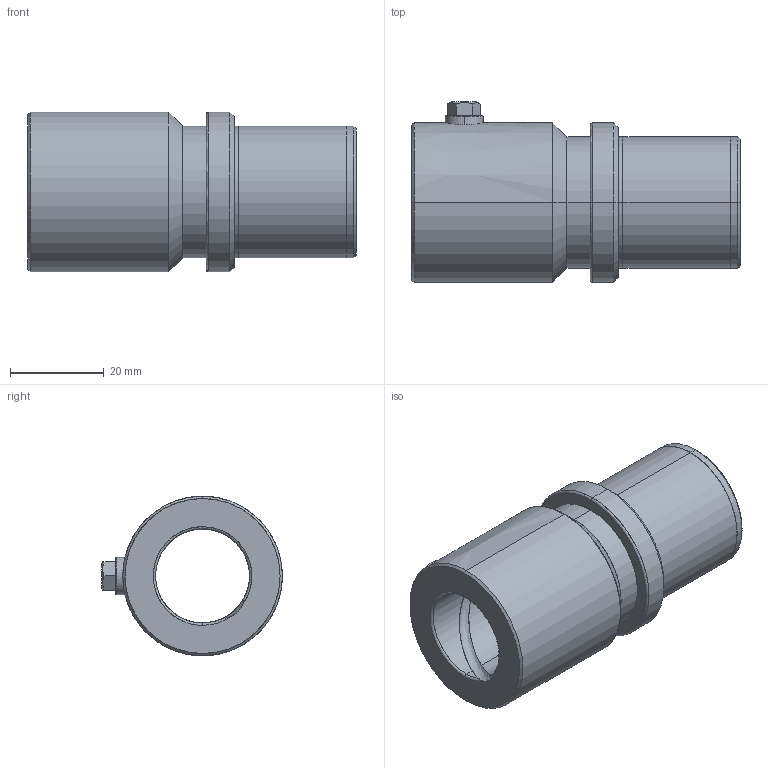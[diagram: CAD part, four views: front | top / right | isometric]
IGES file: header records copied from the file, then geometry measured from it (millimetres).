
Start section: SolidWorks IGES file using analytic representation for surfaces
Global section: file name: C:\Documents and Settings\kalite-mail\Desktop\HAZIR PARÇALAR\D23 Katý model(son kontrolü yapýlacak\D23 ÝGS\D23 - 20x26.IGS; native system: SolidWorks 2008; preprocessor: SolidWorks 2008; author: kalite-mail; date: 080716.131927; units: millimetre
Bounding box: 70 x 38.5 x 34 mm (x, y, z)
Surface area: 12959 mm2 (no closed solid volume)
Topology: 0 solids, 0 shells, 68 faces, 1534 edges, 1530 vertices
Faces by surface type: revolution 37, bspline 31
